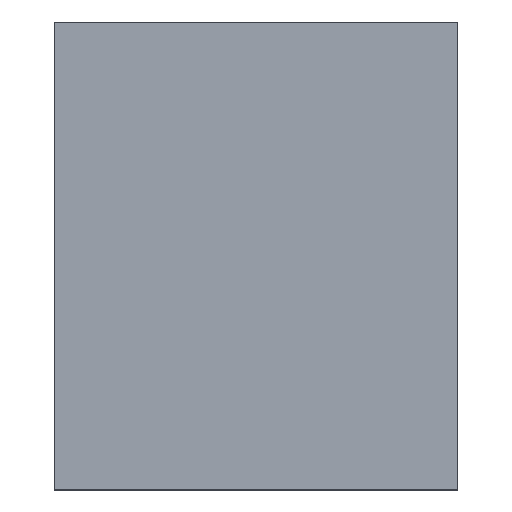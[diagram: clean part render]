
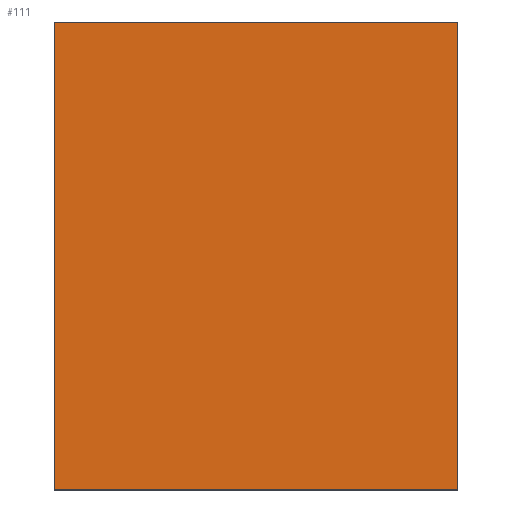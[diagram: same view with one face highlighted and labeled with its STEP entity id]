
A CAD part, top view. The second image highlights one B-rep face of the part: STEP entity #111.
In plain terms, the highlighted planar face has unit normal (0, 0, 1).
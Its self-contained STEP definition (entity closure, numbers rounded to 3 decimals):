
#20 = EDGE_CURVE ( 'NONE', #95, #195, #204, .T. ) ;
#21 = ORIENTED_EDGE ( 'NONE', *, *, #121, .T. ) ;
#29 = VERTEX_POINT ( 'NONE', #170 ) ;
#32 = EDGE_CURVE ( 'NONE', #37, #29, #166, .T. ) ;
#37 = VERTEX_POINT ( 'NONE', #153 ) ;
#51 = FACE_OUTER_BOUND ( 'NONE', #94, .T. ) ;
#55 = AXIS2_PLACEMENT_3D ( 'NONE', #88, #87, #81 ) ;
#57 = PLANE ( 'NONE',  #55 ) ;
#58 = CARTESIAN_POINT ( 'NONE',  ( 17.25, 40., 10. ) ) ;
#60 = DIRECTION ( 'NONE',  ( 1., 0., 0. ) ) ;
#61 = DIRECTION ( 'NONE',  ( 1., 0., 0. ) ) ;
#62 = VECTOR ( 'NONE', #61, 1000. ) ;
#63 = CARTESIAN_POINT ( 'NONE',  ( 17.25, 0., 10. ) ) ;
#64 = LINE ( 'NONE', #63, #62 ) ;
#65 = VECTOR ( 'NONE', #60, 1000. ) ;
#66 = CARTESIAN_POINT ( 'NONE',  ( 17.25, 40., 10. ) ) ;
#67 = LINE ( 'NONE', #66, #65 ) ;
#71 = CARTESIAN_POINT ( 'NONE',  ( 17.25, 0., 10. ) ) ;
#81 = DIRECTION ( 'NONE',  ( -1., 0., 0. ) ) ;
#87 = DIRECTION ( 'NONE',  ( 0., 0., -1. ) ) ;
#88 = CARTESIAN_POINT ( 'NONE',  ( 17.25, 40., 10. ) ) ;
#94 = EDGE_LOOP ( 'NONE', ( #21, #99, #194, #198 ) ) ;
#95 = VERTEX_POINT ( 'NONE', #58 ) ;
#99 = ORIENTED_EDGE ( 'NONE', *, *, #20, .F. ) ;
#111 = ADVANCED_FACE ( 'NONE', ( #51 ), #57, .F. ) ;
#121 = EDGE_CURVE ( 'NONE', #29, #195, #64, .T. ) ;
#153 = CARTESIAN_POINT ( 'NONE',  ( -17.25, 40., 10. ) ) ;
#160 = DIRECTION ( 'NONE',  ( 0., -1., 0. ) ) ;
#161 = VECTOR ( 'NONE', #160, 1000. ) ;
#165 = CARTESIAN_POINT ( 'NONE',  ( -17.25, 40., 10. ) ) ;
#166 = LINE ( 'NONE', #165, #161 ) ;
#170 = CARTESIAN_POINT ( 'NONE',  ( -17.25, 0., 10. ) ) ;
#193 = EDGE_CURVE ( 'NONE', #37, #95, #67, .T. ) ;
#194 = ORIENTED_EDGE ( 'NONE', *, *, #193, .F. ) ;
#195 = VERTEX_POINT ( 'NONE', #71 ) ;
#198 = ORIENTED_EDGE ( 'NONE', *, *, #32, .T. ) ;
#201 = DIRECTION ( 'NONE',  ( 0., -1., 0. ) ) ;
#202 = VECTOR ( 'NONE', #201, 1000. ) ;
#203 = CARTESIAN_POINT ( 'NONE',  ( 17.25, 40., 10. ) ) ;
#204 = LINE ( 'NONE', #203, #202 ) ;
